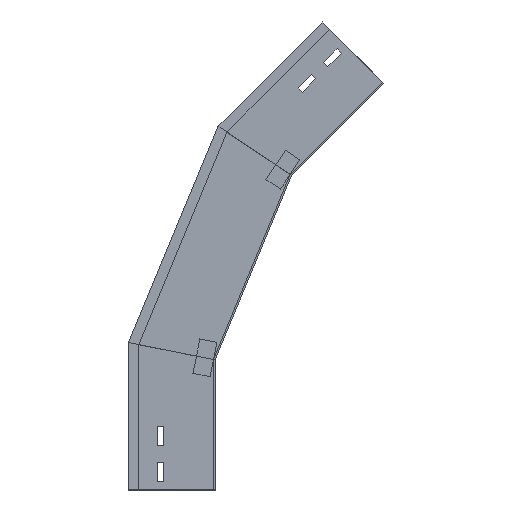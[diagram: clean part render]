
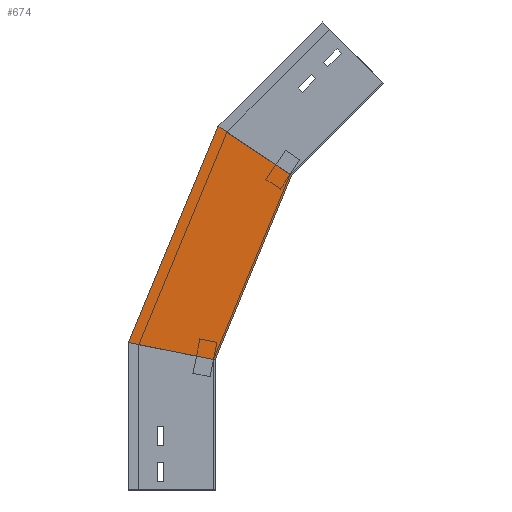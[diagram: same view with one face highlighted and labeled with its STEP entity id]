
A CAD part, left-side view. The second image highlights one B-rep face of the part: STEP entity #674.
In plain terms, the highlighted planar face has unit normal (-1, 0, 0) as drawn and (1, 0, 0) by its records, which use the part's own axes.
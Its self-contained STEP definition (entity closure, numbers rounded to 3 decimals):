
#35 = EDGE_CURVE ( 'NONE', #1384, #557, #185, .T. ) ;
#40 = EDGE_CURVE ( 'NONE', #772, #557, #1247, .T. ) ;
#51 = DIRECTION ( 'NONE',  ( 0., 0., -1. ) ) ;
#54 = VECTOR ( 'NONE', #704, 1000. ) ;
#95 = CARTESIAN_POINT ( 'NONE',  ( 0., 0., 150. ) ) ;
#162 = CARTESIAN_POINT ( 'NONE',  ( 0., 8.412, 129.693 ) ) ;
#185 = LINE ( 'NONE', #1490, #1037 ) ;
#192 = VECTOR ( 'NONE', #1145, 1000. ) ;
#194 = EDGE_CURVE ( 'NONE', #1378, #772, #624, .T. ) ;
#317 = EDGE_LOOP ( 'NONE', ( #1468, #440, #509, #441 ) ) ;
#356 = CARTESIAN_POINT ( 'NONE',  ( 0., -3.241, 419.138 ) ) ;
#440 = ORIENTED_EDGE ( 'NONE', *, *, #35, .T. ) ;
#441 = ORIENTED_EDGE ( 'NONE', *, *, #194, .F. ) ;
#509 = ORIENTED_EDGE ( 'NONE', *, *, #40, .F. ) ;
#529 = DIRECTION ( 'NONE',  ( 1., 0., 0. ) ) ;
#550 = EDGE_CURVE ( 'NONE', #1378, #1384, #1396, .T. ) ;
#557 = VERTEX_POINT ( 'NONE', #782 ) ;
#606 = AXIS2_PLACEMENT_3D ( 'NONE', #162, #529, #51 ) ;
#610 = CARTESIAN_POINT ( 'NONE',  ( 0., 100.799, 167.961 ) ) ;
#624 = LINE ( 'NONE', #1091, #54 ) ;
#674 = ADVANCED_FACE ( 'NONE', ( #1320 ), #1211, .T. ) ;
#704 = DIRECTION ( 'NONE',  ( 0., -0.981, -0.195 ) ) ;
#772 = VERTEX_POINT ( 'NONE', #95 ) ;
#782 = CARTESIAN_POINT ( 'NONE',  ( 0., -88.017, 362.492 ) ) ;
#1027 = VECTOR ( 'NONE', #1443, 1000. ) ;
#1037 = VECTOR ( 'NONE', #1350, 1000. ) ;
#1050 = CARTESIAN_POINT ( 'NONE',  ( 0., 100., 169.891 ) ) ;
#1091 = CARTESIAN_POINT ( 'NONE',  ( 0., -28.701, 144.291 ) ) ;
#1110 = CARTESIAN_POINT ( 'NONE',  ( 0., 8.412, 129.693 ) ) ;
#1145 = DIRECTION ( 'NONE',  ( 0., -0.383, 0.924 ) ) ;
#1211 = PLANE ( 'NONE',  #606 ) ;
#1247 = LINE ( 'NONE', #1110, #192 ) ;
#1320 = FACE_OUTER_BOUND ( 'NONE', #317, .T. ) ;
#1350 = DIRECTION ( 'NONE',  ( 0., -0.831, -0.556 ) ) ;
#1378 = VERTEX_POINT ( 'NONE', #1050 ) ;
#1384 = VERTEX_POINT ( 'NONE', #356 ) ;
#1396 = LINE ( 'NONE', #610, #1027 ) ;
#1443 = DIRECTION ( 'NONE',  ( 0., -0.383, 0.924 ) ) ;
#1468 = ORIENTED_EDGE ( 'NONE', *, *, #550, .T. ) ;
#1490 = CARTESIAN_POINT ( 'NONE',  ( 0., -128.891, 335.181 ) ) ;
